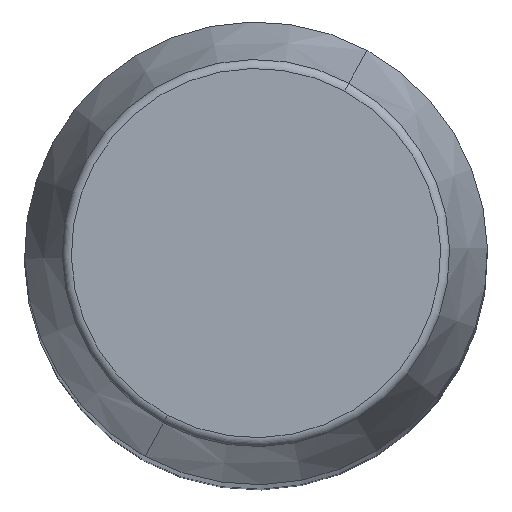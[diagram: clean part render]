
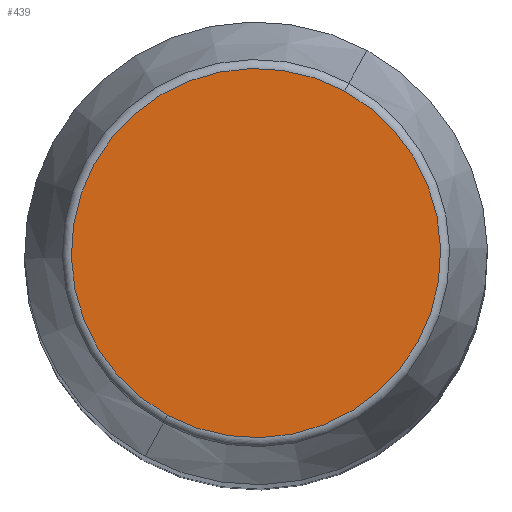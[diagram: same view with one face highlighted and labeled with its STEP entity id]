
A CAD part, top view. The second image highlights one B-rep face of the part: STEP entity #439.
In plain terms, the highlighted planar face has unit normal (0, 0, 1).
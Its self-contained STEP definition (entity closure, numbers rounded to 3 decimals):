
#391=CARTESIAN_POINT('Vertex',(-9.562,-17.504,355.)) ;
#394=CARTESIAN_POINT('Axis2P3D Location',(0.,0.,355.)) ;
#398=CARTESIAN_POINT('Vertex',(9.562,17.504,355.)) ;
#418=CARTESIAN_POINT('Axis2P3D Location',(0.,0.,355.)) ;
#430=CARTESIAN_POINT('Axis2P3D Location',(0.,19.945,355.)) ;
#395=DIRECTION('Axis2P3D Direction',(0.,0.,-1.)) ;
#419=DIRECTION('Axis2P3D Direction',(0.,0.,-1.)) ;
#431=DIRECTION('Axis2P3D Direction',(0.,0.,-1.)) ;
#432=DIRECTION('Axis2P3D XDirection',(1.,0.,0.)) ;
#396=AXIS2_PLACEMENT_3D('Circle Axis2P3D',#394,#395,$) ;
#420=AXIS2_PLACEMENT_3D('Circle Axis2P3D',#418,#419,$) ;
#433=AXIS2_PLACEMENT_3D('Plane Axis2P3D',#430,#431,#432) ;
#436=ORIENTED_EDGE('',*,*,#422,.F.) ;
#437=ORIENTED_EDGE('',*,*,#400,.F.) ;
#439=ADVANCED_FACE('PartBody',(#438),#434,.F.) ;
#397=CIRCLE('generated circle',#396,19.945) ;
#421=CIRCLE('generated circle',#420,19.945) ;
#400=EDGE_CURVE('',#392,#399,#397,.T.) ;
#422=EDGE_CURVE('',#399,#392,#421,.T.) ;
#435=EDGE_LOOP('',(#436,#437)) ;
#438=FACE_OUTER_BOUND('',#435,.T.) ;
#434=PLANE('Plane',#433) ;
#392=VERTEX_POINT('',#391) ;
#399=VERTEX_POINT('',#398) ;
